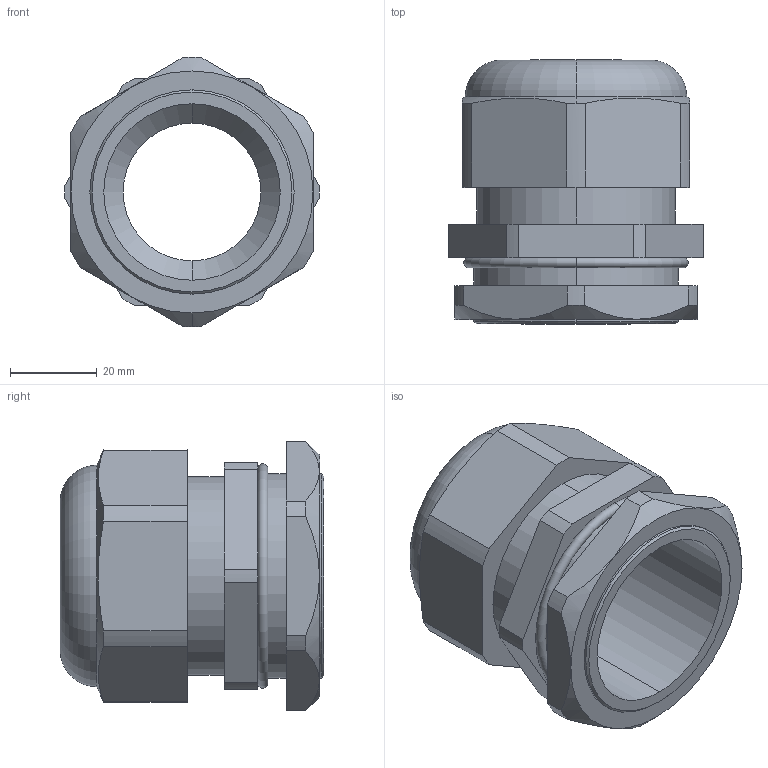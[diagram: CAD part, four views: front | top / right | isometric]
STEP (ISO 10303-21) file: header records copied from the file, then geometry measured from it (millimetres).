
FILE_DESCRIPTION (( 'STEP AP203' ), '1' );
FILE_NAME ('CH-PG36.STEP', '2018-02-07T14:35:32', ( '' ), ( '' ), 'SwSTEP 2.0', 'SolidWorks 2012', '' );
FILE_SCHEMA (( 'CONFIG_CONTROL_DESIGN' ));
Length unit declared in the file: millimetre
Products named in the file (1): CH-PG36
Bounding box: 58.59 x 60.7 x 62.09 mm (x, y, z)
Volume: 64971.3 mm3; surface area: 22912.6 mm2
Topology: 1 solids, 1 shells, 78 faces, 189 edges, 118 vertices
Faces by surface type: cylinder 34, plane 25, cone 15, torus 4
Entity records: 2478 total; most frequent: CARTESIAN_POINT 532, DIRECTION 415, ORIENTED_EDGE 378, EDGE_CURVE 189, AXIS2_PLACEMENT_3D 165, VERTEX_POINT 118, CIRCLE 86, EDGE_LOOP 85
